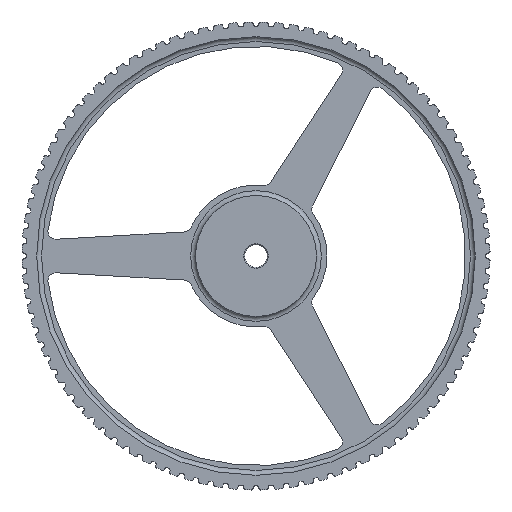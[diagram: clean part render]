
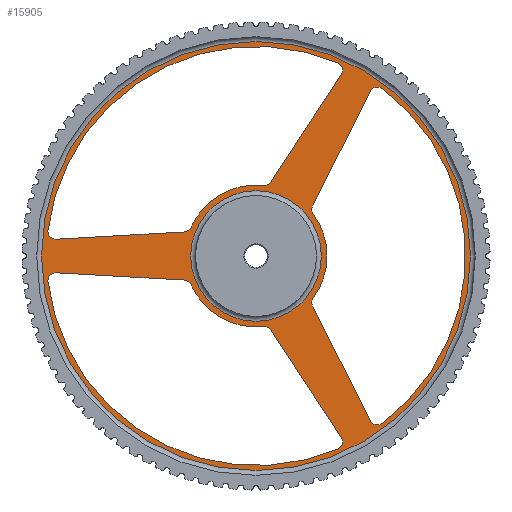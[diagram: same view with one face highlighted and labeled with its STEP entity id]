
A CAD part, left-side view. The second image highlights one B-rep face of the part: STEP entity #15905.
In plain terms, the highlighted planar face has unit normal (-1, 0, 0).
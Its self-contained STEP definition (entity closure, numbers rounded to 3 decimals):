
#30=FACE_BOUND('',#1960,.T.);
#31=FACE_BOUND('',#1961,.T.);
#32=FACE_BOUND('',#1962,.T.);
#33=FACE_BOUND('',#1963,.T.);
#333=PLANE('',#17755);
#1141=FACE_OUTER_BOUND('',#1959,.T.);
#1959=EDGE_LOOP('',(#14559));
#1960=EDGE_LOOP('',(#14560,#14561,#14562,#14563,#14564,#14565,#14566,#14567));
#1961=EDGE_LOOP('',(#14568,#14569,#14570,#14571,#14572,#14573,#14574,#14575));
#1962=EDGE_LOOP('',(#14576,#14577,#14578,#14579,#14580,#14581,#14582,#14583));
#1963=EDGE_LOOP('',(#14584));
#3312=LINE('',#27437,#4700);
#3318=LINE('',#27461,#4706);
#3324=LINE('',#27485,#4712);
#3330=LINE('',#27509,#4718);
#3336=LINE('',#27533,#4724);
#3342=LINE('',#27557,#4730);
#4700=VECTOR('',#22578,10.);
#4706=VECTOR('',#22604,10.);
#4712=VECTOR('',#22630,10.);
#4718=VECTOR('',#22656,10.);
#4724=VECTOR('',#22682,10.);
#4730=VECTOR('',#22708,10.);
#5703=CIRCLE('',#17662,5.);
#5705=CIRCLE('',#17666,5.);
#5707=CIRCLE('',#17669,130.);
#5709=CIRCLE('',#17672,5.);
#5711=CIRCLE('',#17676,5.);
#5713=CIRCLE('',#17679,44.);
#5715=CIRCLE('',#17682,5.);
#5717=CIRCLE('',#17686,5.);
#5719=CIRCLE('',#17689,130.);
#5721=CIRCLE('',#17692,5.);
#5723=CIRCLE('',#17696,5.);
#5725=CIRCLE('',#17699,44.);
#5727=CIRCLE('',#17702,5.);
#5729=CIRCLE('',#17706,5.);
#5731=CIRCLE('',#17709,130.);
#5733=CIRCLE('',#17712,5.);
#5735=CIRCLE('',#17716,5.);
#5737=CIRCLE('',#17719,44.);
#5758=CIRCLE('',#17754,40.5);
#5759=CIRCLE('',#17756,133.);
#7300=VERTEX_POINT('',#27427);
#7301=VERTEX_POINT('',#27428);
#7304=VERTEX_POINT('',#27436);
#7306=VERTEX_POINT('',#27442);
#7308=VERTEX_POINT('',#27448);
#7310=VERTEX_POINT('',#27454);
#7312=VERTEX_POINT('',#27460);
#7314=VERTEX_POINT('',#27466);
#7316=VERTEX_POINT('',#27475);
#7317=VERTEX_POINT('',#27476);
#7320=VERTEX_POINT('',#27484);
#7322=VERTEX_POINT('',#27490);
#7324=VERTEX_POINT('',#27496);
#7326=VERTEX_POINT('',#27502);
#7328=VERTEX_POINT('',#27508);
#7330=VERTEX_POINT('',#27514);
#7332=VERTEX_POINT('',#27523);
#7333=VERTEX_POINT('',#27524);
#7336=VERTEX_POINT('',#27532);
#7338=VERTEX_POINT('',#27538);
#7340=VERTEX_POINT('',#27544);
#7342=VERTEX_POINT('',#27550);
#7344=VERTEX_POINT('',#27556);
#7346=VERTEX_POINT('',#27562);
#7364=VERTEX_POINT('',#27625);
#7365=VERTEX_POINT('',#27629);
#9673=EDGE_CURVE('',#7300,#7301,#5703,.T.);
#9677=EDGE_CURVE('',#7301,#7304,#3312,.T.);
#9680=EDGE_CURVE('',#7304,#7306,#5705,.T.);
#9683=EDGE_CURVE('',#7306,#7308,#5707,.T.);
#9686=EDGE_CURVE('',#7308,#7310,#5709,.T.);
#9689=EDGE_CURVE('',#7310,#7312,#3318,.T.);
#9692=EDGE_CURVE('',#7312,#7314,#5711,.T.);
#9695=EDGE_CURVE('',#7314,#7300,#5713,.T.);
#9697=EDGE_CURVE('',#7316,#7317,#5715,.T.);
#9701=EDGE_CURVE('',#7317,#7320,#3324,.T.);
#9704=EDGE_CURVE('',#7320,#7322,#5717,.T.);
#9707=EDGE_CURVE('',#7322,#7324,#5719,.T.);
#9710=EDGE_CURVE('',#7324,#7326,#5721,.T.);
#9713=EDGE_CURVE('',#7326,#7328,#3330,.T.);
#9716=EDGE_CURVE('',#7328,#7330,#5723,.T.);
#9719=EDGE_CURVE('',#7330,#7316,#5725,.T.);
#9721=EDGE_CURVE('',#7332,#7333,#5727,.T.);
#9725=EDGE_CURVE('',#7333,#7336,#3336,.T.);
#9728=EDGE_CURVE('',#7336,#7338,#5729,.T.);
#9731=EDGE_CURVE('',#7338,#7340,#5731,.T.);
#9734=EDGE_CURVE('',#7340,#7342,#5733,.T.);
#9737=EDGE_CURVE('',#7342,#7344,#3342,.T.);
#9740=EDGE_CURVE('',#7344,#7346,#5735,.T.);
#9743=EDGE_CURVE('',#7346,#7332,#5737,.T.);
#9771=EDGE_CURVE('',#7364,#7364,#5758,.T.);
#9772=EDGE_CURVE('',#7365,#7365,#5759,.T.);
#14559=ORIENTED_EDGE('',*,*,#9772,.F.);
#14560=ORIENTED_EDGE('',*,*,#9673,.T.);
#14561=ORIENTED_EDGE('',*,*,#9677,.T.);
#14562=ORIENTED_EDGE('',*,*,#9680,.T.);
#14563=ORIENTED_EDGE('',*,*,#9683,.T.);
#14564=ORIENTED_EDGE('',*,*,#9686,.T.);
#14565=ORIENTED_EDGE('',*,*,#9689,.T.);
#14566=ORIENTED_EDGE('',*,*,#9692,.T.);
#14567=ORIENTED_EDGE('',*,*,#9695,.T.);
#14568=ORIENTED_EDGE('',*,*,#9697,.T.);
#14569=ORIENTED_EDGE('',*,*,#9701,.T.);
#14570=ORIENTED_EDGE('',*,*,#9704,.T.);
#14571=ORIENTED_EDGE('',*,*,#9707,.T.);
#14572=ORIENTED_EDGE('',*,*,#9710,.T.);
#14573=ORIENTED_EDGE('',*,*,#9713,.T.);
#14574=ORIENTED_EDGE('',*,*,#9716,.T.);
#14575=ORIENTED_EDGE('',*,*,#9719,.T.);
#14576=ORIENTED_EDGE('',*,*,#9721,.T.);
#14577=ORIENTED_EDGE('',*,*,#9725,.T.);
#14578=ORIENTED_EDGE('',*,*,#9728,.T.);
#14579=ORIENTED_EDGE('',*,*,#9731,.T.);
#14580=ORIENTED_EDGE('',*,*,#9734,.T.);
#14581=ORIENTED_EDGE('',*,*,#9737,.T.);
#14582=ORIENTED_EDGE('',*,*,#9740,.T.);
#14583=ORIENTED_EDGE('',*,*,#9743,.T.);
#14584=ORIENTED_EDGE('',*,*,#9771,.T.);
#15905=ADVANCED_FACE('',(#1141,#30,#31,#32,#33),#333,.T.);
#17662=AXIS2_PLACEMENT_3D('',#27429,#22570,#22571);
#17666=AXIS2_PLACEMENT_3D('',#27443,#22583,#22584);
#17669=AXIS2_PLACEMENT_3D('',#27449,#22590,#22591);
#17672=AXIS2_PLACEMENT_3D('',#27455,#22597,#22598);
#17676=AXIS2_PLACEMENT_3D('',#27467,#22609,#22610);
#17679=AXIS2_PLACEMENT_3D('',#27472,#22616,#22617);
#17682=AXIS2_PLACEMENT_3D('',#27477,#22622,#22623);
#17686=AXIS2_PLACEMENT_3D('',#27491,#22635,#22636);
#17689=AXIS2_PLACEMENT_3D('',#27497,#22642,#22643);
#17692=AXIS2_PLACEMENT_3D('',#27503,#22649,#22650);
#17696=AXIS2_PLACEMENT_3D('',#27515,#22661,#22662);
#17699=AXIS2_PLACEMENT_3D('',#27520,#22668,#22669);
#17702=AXIS2_PLACEMENT_3D('',#27525,#22674,#22675);
#17706=AXIS2_PLACEMENT_3D('',#27539,#22687,#22688);
#17709=AXIS2_PLACEMENT_3D('',#27545,#22694,#22695);
#17712=AXIS2_PLACEMENT_3D('',#27551,#22701,#22702);
#17716=AXIS2_PLACEMENT_3D('',#27563,#22713,#22714);
#17719=AXIS2_PLACEMENT_3D('',#27568,#22720,#22721);
#17754=AXIS2_PLACEMENT_3D('',#27627,#22797,#22798);
#17755=AXIS2_PLACEMENT_3D('',#27628,#22799,#22800);
#17756=AXIS2_PLACEMENT_3D('',#27630,#22801,#22802);
#22570=DIRECTION('center_axis',(1.,0.,0.));
#22571=DIRECTION('ref_axis',(0.,-0.914,-0.406));
#22578=DIRECTION('',(0.,0.998,-0.057));
#22583=DIRECTION('center_axis',(1.,0.,0.));
#22584=DIRECTION('ref_axis',(0.,-0.057,-0.998));
#22590=DIRECTION('center_axis',(1.,0.,0.));
#22591=DIRECTION('ref_axis',(0.,0.992,0.123));
#22597=DIRECTION('center_axis',(1.,0.,0.));
#22598=DIRECTION('ref_axis',(0.,-0.389,0.921));
#22604=DIRECTION('',(0.,0.548,-0.836));
#22609=DIRECTION('center_axis',(1.,0.,0.));
#22610=DIRECTION('ref_axis',(0.,-0.836,-0.548));
#22616=DIRECTION('center_axis',(-1.,0.,0.));
#22617=DIRECTION('ref_axis',(0.,-0.914,-0.406));
#22622=DIRECTION('center_axis',(1.,0.,0.));
#22623=DIRECTION('ref_axis',(0.,0.105,0.994));
#22630=DIRECTION('',(0.,-0.548,-0.836));
#22635=DIRECTION('center_axis',(1.,0.,0.));
#22636=DIRECTION('ref_axis',(0.,-0.836,0.548));
#22642=DIRECTION('center_axis',(1.,0.,0.));
#22643=DIRECTION('ref_axis',(0.,-0.389,-0.921));
#22649=DIRECTION('center_axis',(1.,0.,0.));
#22650=DIRECTION('ref_axis',(0.,0.992,-0.123));
#22656=DIRECTION('',(0.,-0.998,-0.057));
#22661=DIRECTION('center_axis',(1.,0.,0.));
#22662=DIRECTION('ref_axis',(0.,-0.057,0.998));
#22668=DIRECTION('center_axis',(-1.,0.,0.));
#22669=DIRECTION('ref_axis',(0.,0.105,0.994));
#22674=DIRECTION('center_axis',(1.,0.,0.));
#22675=DIRECTION('ref_axis',(0.,0.809,-0.588));
#22682=DIRECTION('',(0.,-0.45,0.893));
#22687=DIRECTION('center_axis',(1.,0.,0.));
#22688=DIRECTION('ref_axis',(0.,0.893,0.45));
#22694=DIRECTION('center_axis',(1.,0.,0.));
#22695=DIRECTION('ref_axis',(0.,-0.603,0.798));
#22701=DIRECTION('center_axis',(1.,0.,0.));
#22702=DIRECTION('ref_axis',(0.,-0.603,-0.798));
#22708=DIRECTION('',(0.,0.45,0.893));
#22713=DIRECTION('center_axis',(1.,0.,0.));
#22714=DIRECTION('ref_axis',(0.,0.893,-0.45));
#22720=DIRECTION('center_axis',(-1.,0.,0.));
#22721=DIRECTION('ref_axis',(0.,0.809,-0.588));
#22797=DIRECTION('center_axis',(1.,0.,0.));
#22798=DIRECTION('ref_axis',(0.,0.,-1.));
#22799=DIRECTION('center_axis',(-1.,0.,0.));
#22800=DIRECTION('ref_axis',(0.,0.,1.));
#22801=DIRECTION('center_axis',(1.,0.,0.));
#22802=DIRECTION('ref_axis',(0.,0.,-1.));
#27427=CARTESIAN_POINT('',(8.2,40.205,17.875));
#27428=CARTESIAN_POINT('',(8.2,44.491,14.915));
#27429=CARTESIAN_POINT('Origin',(8.2,44.774,19.907));
#27436=CARTESIAN_POINT('',(8.2,123.764,10.413));
#27437=CARTESIAN_POINT('',(8.2,128.662,10.135));
#27442=CARTESIAN_POINT('',(8.2,129.009,16.022));
#27443=CARTESIAN_POINT('Origin',(8.2,124.047,15.405));
#27448=CARTESIAN_POINT('',(8.2,-50.629,119.736));
#27449=CARTESIAN_POINT('Origin',(8.2,0.,0.));
#27454=CARTESIAN_POINT('',(8.2,-52.864,112.389));
#27455=CARTESIAN_POINT('Origin',(8.2,-48.682,115.131));
#27460=CARTESIAN_POINT('',(8.2,-9.329,45.987));
#27461=CARTESIAN_POINT('',(8.2,22.608,-2.725));
#27466=CARTESIAN_POINT('',(8.2,-4.622,43.757));
#27467=CARTESIAN_POINT('Origin',(8.2,-5.147,48.729));
#27472=CARTESIAN_POINT('Origin',(8.2,0.,0.));
#27475=CARTESIAN_POINT('',(8.2,-4.622,-43.757));
#27476=CARTESIAN_POINT('',(8.2,-9.329,-45.987));
#27477=CARTESIAN_POINT('Origin',(8.2,-5.147,-48.729));
#27484=CARTESIAN_POINT('',(8.2,-52.864,-112.389));
#27485=CARTESIAN_POINT('',(8.2,0.841,-30.476));
#27490=CARTESIAN_POINT('',(8.2,-50.629,-119.736));
#27491=CARTESIAN_POINT('Origin',(8.2,-48.682,-115.131));
#27496=CARTESIAN_POINT('',(8.2,129.009,-16.022));
#27497=CARTESIAN_POINT('Origin',(8.2,0.,0.));
#27502=CARTESIAN_POINT('',(8.2,123.764,-10.413));
#27503=CARTESIAN_POINT('Origin',(8.2,124.047,-15.405));
#27508=CARTESIAN_POINT('',(8.2,44.491,-14.915));
#27509=CARTESIAN_POINT('',(8.2,89.025,-12.386));
#27514=CARTESIAN_POINT('',(8.2,40.205,-17.875));
#27515=CARTESIAN_POINT('Origin',(8.2,44.774,-19.907));
#27520=CARTESIAN_POINT('Origin',(8.2,0.,0.));
#27523=CARTESIAN_POINT('',(8.2,-35.583,25.881));
#27524=CARTESIAN_POINT('',(8.2,-35.162,31.073));
#27525=CARTESIAN_POINT('Origin',(8.2,-39.627,28.822));
#27532=CARTESIAN_POINT('',(8.2,-70.9,101.976));
#27533=CARTESIAN_POINT('',(8.2,-29.753,20.341));
#27538=CARTESIAN_POINT('',(8.2,-78.38,103.714));
#27539=CARTESIAN_POINT('Origin',(8.2,-75.365,99.725));
#27544=CARTESIAN_POINT('',(8.2,-78.38,-103.714));
#27545=CARTESIAN_POINT('Origin',(8.2,0.,0.));
#27550=CARTESIAN_POINT('',(8.2,-70.9,-101.976));
#27551=CARTESIAN_POINT('Origin',(8.2,-75.365,-99.725));
#27556=CARTESIAN_POINT('',(8.2,-35.162,-31.073));
#27557=CARTESIAN_POINT('',(8.2,-11.884,15.111));
#27562=CARTESIAN_POINT('',(8.2,-35.583,-25.881));
#27563=CARTESIAN_POINT('Origin',(8.2,-39.627,-28.822));
#27568=CARTESIAN_POINT('Origin',(8.2,0.,0.));
#27625=CARTESIAN_POINT('',(8.2,0.,40.5));
#27627=CARTESIAN_POINT('Origin',(8.2,0.,0.));
#27628=CARTESIAN_POINT('Origin',(8.2,133.,0.));
#27629=CARTESIAN_POINT('',(8.2,0.,133.));
#27630=CARTESIAN_POINT('Origin',(8.2,0.,0.));
